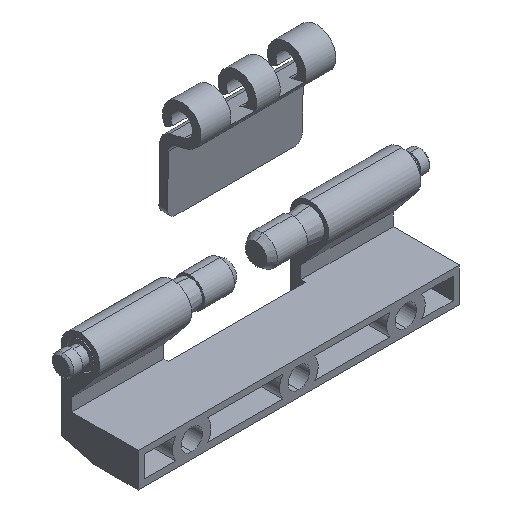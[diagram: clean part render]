
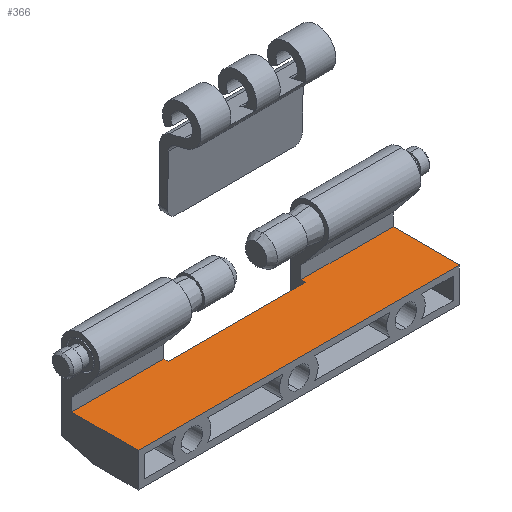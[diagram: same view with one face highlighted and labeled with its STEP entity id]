
A CAD part, isometric view. The second image highlights one B-rep face of the part: STEP entity #366.
In plain terms, the highlighted planar face has unit normal (0, 0, 1).
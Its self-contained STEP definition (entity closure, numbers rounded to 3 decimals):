
#53 = CARTESIAN_POINT ( 'NONE',  ( 16., 15.5, 8. ) ) ;
#59 = CARTESIAN_POINT ( 'NONE',  ( 16., 0., 8. ) ) ;
#168 = ORIENTED_EDGE ( 'NONE', *, *, #3471, .T. ) ;
#241 = CARTESIAN_POINT ( 'NONE',  ( 37.5, 0., 8. ) ) ;
#255 = VECTOR ( 'NONE', #3430, 1000. ) ;
#261 = LINE ( 'NONE', #241, #3892 ) ;
#278 = EDGE_CURVE ( 'NONE', #591, #574, #261, .T. ) ;
#366 = ADVANCED_FACE ( 'NONE', ( #3035 ), #2643, .F. ) ;
#369 = VECTOR ( 'NONE', #2737, 1000. ) ;
#376 = ORIENTED_EDGE ( 'NONE', *, *, #760, .T. ) ;
#407 = DIRECTION ( 'NONE',  ( -1., 0., 0. ) ) ;
#471 = CARTESIAN_POINT ( 'NONE',  ( -16., 15.5, 8. ) ) ;
#503 = CARTESIAN_POINT ( 'NONE',  ( 37.5, 0., 8. ) ) ;
#505 = CARTESIAN_POINT ( 'NONE',  ( 37.5, 0., 8. ) ) ;
#552 = ORIENTED_EDGE ( 'NONE', *, *, #1628, .F. ) ;
#554 = EDGE_LOOP ( 'NONE', ( #1170, #1561, #376, #4103, #552, #3484, #168, #3503 ) ) ;
#574 = VERTEX_POINT ( 'NONE', #503 ) ;
#591 = VERTEX_POINT ( 'NONE', #841 ) ;
#687 = VECTOR ( 'NONE', #728, 1000. ) ;
#728 = DIRECTION ( 'NONE',  ( 0., 1., 0. ) ) ;
#760 = EDGE_CURVE ( 'NONE', #1483, #1306, #906, .T. ) ;
#820 = VECTOR ( 'NONE', #2336, 1000. ) ;
#841 = CARTESIAN_POINT ( 'NONE',  ( 37.5, 15.5, 8. ) ) ;
#906 = LINE ( 'NONE', #4028, #3848 ) ;
#934 = DIRECTION ( 'NONE',  ( 0., 0., -1. ) ) ;
#943 = LINE ( 'NONE', #1255, #3610 ) ;
#1170 = ORIENTED_EDGE ( 'NONE', *, *, #2124, .T. ) ;
#1253 = CARTESIAN_POINT ( 'NONE',  ( 37.5, 14.5, 8. ) ) ;
#1255 = CARTESIAN_POINT ( 'NONE',  ( 37.5, 15.5, 8. ) ) ;
#1280 = VERTEX_POINT ( 'NONE', #1356 ) ;
#1306 = VERTEX_POINT ( 'NONE', #2538 ) ;
#1307 = AXIS2_PLACEMENT_3D ( 'NONE', #3448, #934, #407 ) ;
#1356 = CARTESIAN_POINT ( 'NONE',  ( -37.5, 0., 8. ) ) ;
#1483 = VERTEX_POINT ( 'NONE', #471 ) ;
#1561 = ORIENTED_EDGE ( 'NONE', *, *, #3269, .T. ) ;
#1588 = DIRECTION ( 'NONE',  ( -1., 0., 0. ) ) ;
#1628 = EDGE_CURVE ( 'NONE', #574, #1280, #4085, .T. ) ;
#1716 = LINE ( 'NONE', #2610, #687 ) ;
#1950 = VECTOR ( 'NONE', #1588, 1000. ) ;
#1974 = VERTEX_POINT ( 'NONE', #3024 ) ;
#2124 = EDGE_CURVE ( 'NONE', #1974, #2339, #3432, .T. ) ;
#2161 = CARTESIAN_POINT ( 'NONE',  ( -37.5, 0., 8. ) ) ;
#2336 = DIRECTION ( 'NONE',  ( 0., -1., 0. ) ) ;
#2339 = VERTEX_POINT ( 'NONE', #2514 ) ;
#2514 = CARTESIAN_POINT ( 'NONE',  ( -16., 14.5, 8. ) ) ;
#2538 = CARTESIAN_POINT ( 'NONE',  ( -37.5, 15.5, 8. ) ) ;
#2610 = CARTESIAN_POINT ( 'NONE',  ( -16., 0., 8. ) ) ;
#2642 = EDGE_CURVE ( 'NONE', #1306, #1280, #4122, .T. ) ;
#2643 = PLANE ( 'NONE',  #1307 ) ;
#2737 = DIRECTION ( 'NONE',  ( -1., 0., 0. ) ) ;
#2877 = DIRECTION ( 'NONE',  ( -1., 0., 0. ) ) ;
#3024 = CARTESIAN_POINT ( 'NONE',  ( 16., 14.5, 8. ) ) ;
#3035 = FACE_OUTER_BOUND ( 'NONE', #554, .T. ) ;
#3269 = EDGE_CURVE ( 'NONE', #2339, #1483, #1716, .T. ) ;
#3343 = EDGE_CURVE ( 'NONE', #3859, #1974, #3540, .T. ) ;
#3363 = DIRECTION ( 'NONE',  ( 0., -1., 0. ) ) ;
#3430 = DIRECTION ( 'NONE',  ( 0., -1., 0. ) ) ;
#3432 = LINE ( 'NONE', #1253, #1950 ) ;
#3448 = CARTESIAN_POINT ( 'NONE',  ( 37.5, 0., 8. ) ) ;
#3471 = EDGE_CURVE ( 'NONE', #591, #3859, #943, .T. ) ;
#3484 = ORIENTED_EDGE ( 'NONE', *, *, #278, .F. ) ;
#3503 = ORIENTED_EDGE ( 'NONE', *, *, #3343, .T. ) ;
#3540 = LINE ( 'NONE', #59, #820 ) ;
#3610 = VECTOR ( 'NONE', #2877, 1000. ) ;
#3772 = DIRECTION ( 'NONE',  ( -1., 0., 0. ) ) ;
#3848 = VECTOR ( 'NONE', #3772, 1000. ) ;
#3859 = VERTEX_POINT ( 'NONE', #53 ) ;
#3892 = VECTOR ( 'NONE', #3363, 1000. ) ;
#4028 = CARTESIAN_POINT ( 'NONE',  ( 37.5, 15.5, 8. ) ) ;
#4085 = LINE ( 'NONE', #505, #369 ) ;
#4103 = ORIENTED_EDGE ( 'NONE', *, *, #2642, .T. ) ;
#4122 = LINE ( 'NONE', #2161, #255 ) ;
